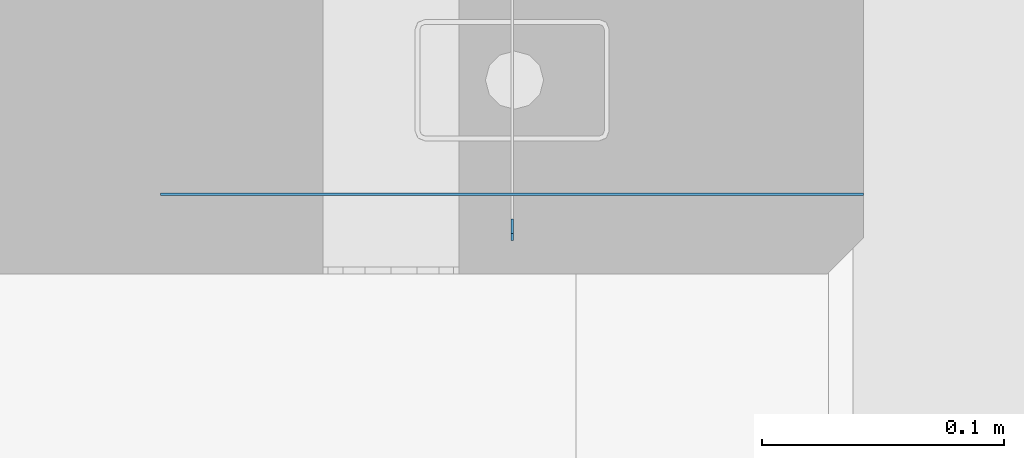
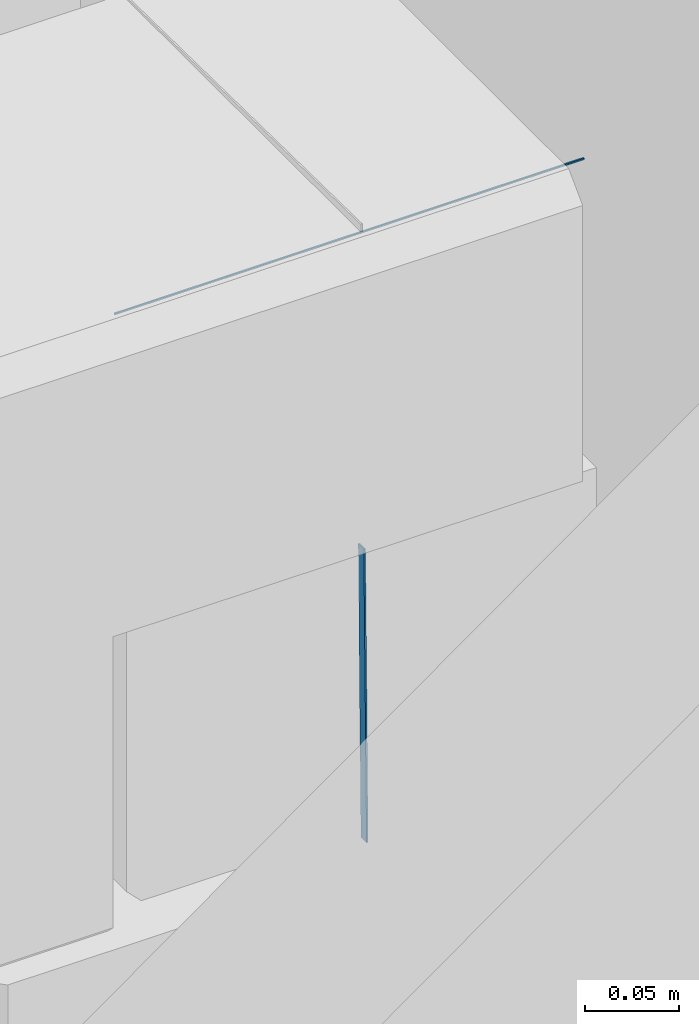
# One storey, part 25 of 186: 2 beams.
"""IFC4X3_ADD2 building model written with IfcOpenShell, lengths in millimetres."""

from ifc_helpers import new_model, si_unit, direction, frame, frame_2d, origin_with_axes, place, context, subcontext, project, spatial, rectangle, extrude, material, element, save


model = new_model("IFC4X3_ADD2")

# Units and contexts
model_context = context("Model", 3, precision=1e-05, world=origin_with_axes(), true_north=direction((0.0, 1.0)))
body_context = subcontext(model_context, "Body", "Model", "MODEL_VIEW")
ifc_project = project(units=[si_unit("LENGTHUNIT", "METRE", prefix="MILLI"), si_unit("AREAUNIT", "SQUARE_METRE"), si_unit("VOLUMEUNIT", "CUBIC_METRE"), si_unit("PLANEANGLEUNIT", "RADIAN"), si_unit("TIMEUNIT", "SECOND"), si_unit("MASSUNIT", "GRAM")], contexts=[model_context])

# Site, building, storey
site_placement = place(None, origin_with_axes())
site = spatial("IfcSite", under=ifc_project, at=site_placement, Name="Site", CompositionType="ELEMENT")
building_placement = place(site_placement, origin_with_axes())
building = spatial("IfcBuilding", under=site, at=building_placement, Name="IFC Building Story")
storey_placement = place(building_placement, frame((0.0, 0.0, 4370.0), z_axis=(0.0, 0.0, 1.0), x_axis=(1.0, 0.0, 0.0)))
storey = spatial("IfcBuildingStorey", under=building, at=storey_placement, Name="ETAGE 10 (1)", Elevation=4370.0)

# Beams
ifc_material_1 = material(Name="STEEL/Accessory_invisible 261")
beam_1_placement = place(storey_placement, frame((48361.6886988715, -14441.7424583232, 3069.0416851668), z_axis=(-1.0, 0.0, 0.0), x_axis=(0.0, 0.01555025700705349, 0.9998790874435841)))
element("IfcBeam", 1, at=beam_1_placement, inside=storey, material=ifc_material_1, Name="BEK4", ObjectType="6*1 5", context=body_context, shape_type="SweptSolid", body=[
    extrude(rectangle(XDim=190.000000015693, YDim=5.99999999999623, at=frame_2d((0.0, 5.95523630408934e-12), x_axis=(1.0, 0.0))), origin_with_axes(), (0.0, 0.0, 1.0), 1.0),
])
ifc_material_2 = material(Name="STEEL/Accessory_invisible")
beam_2_placement = place(storey_placement, frame((48506.08869887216, -14426.9839493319, 3358.347230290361), z_axis=(-1.0, 0.0, 0.0), x_axis=(0.0, 1.0, 0.0)))
element("IfcBeam", 2, at=beam_2_placement, inside=storey, material=ifc_material_2, Name="ZW3", ObjectType="1*1 3", context=body_context, shape_type="SweptSolid", body=[
    extrude(rectangle(XDim=0.9999999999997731, YDim=0.9999999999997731, at=frame_2d((0.0, 5.95523630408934e-12), x_axis=(1.0, 0.0))), origin_with_axes(), (0.0, 0.0, 1.0), 289.9000000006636),
])

save(model, "model.ifc")
